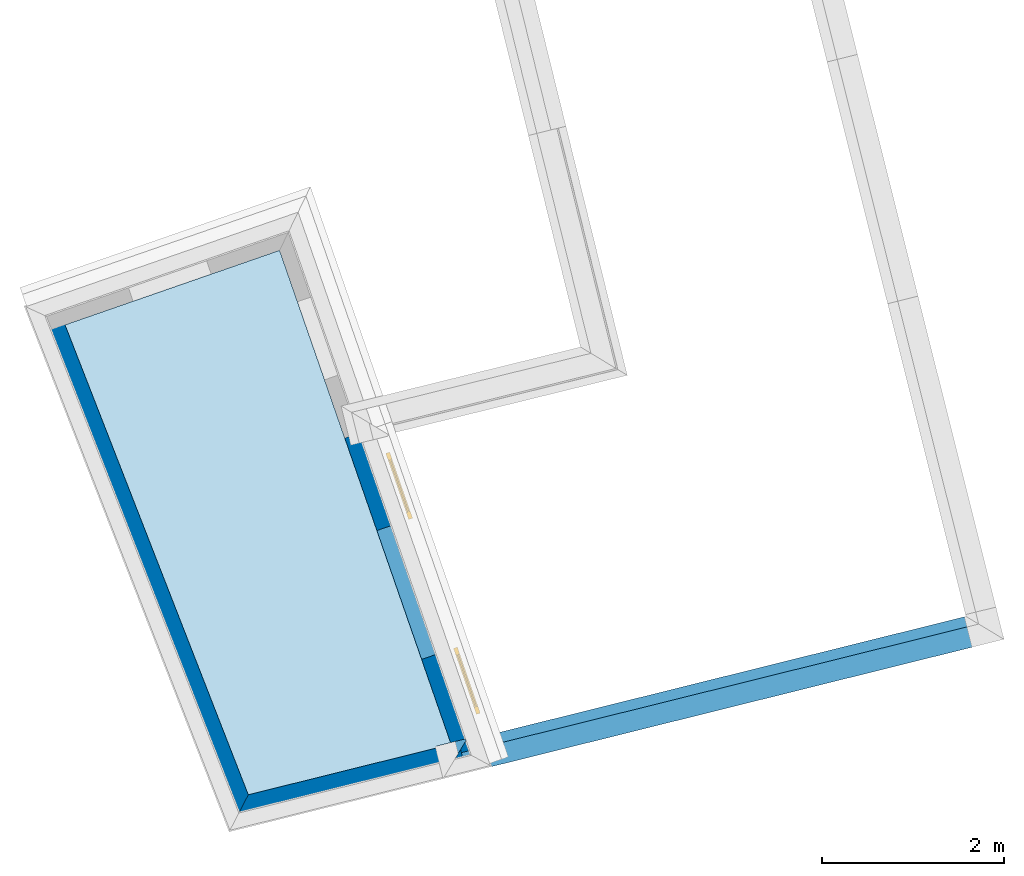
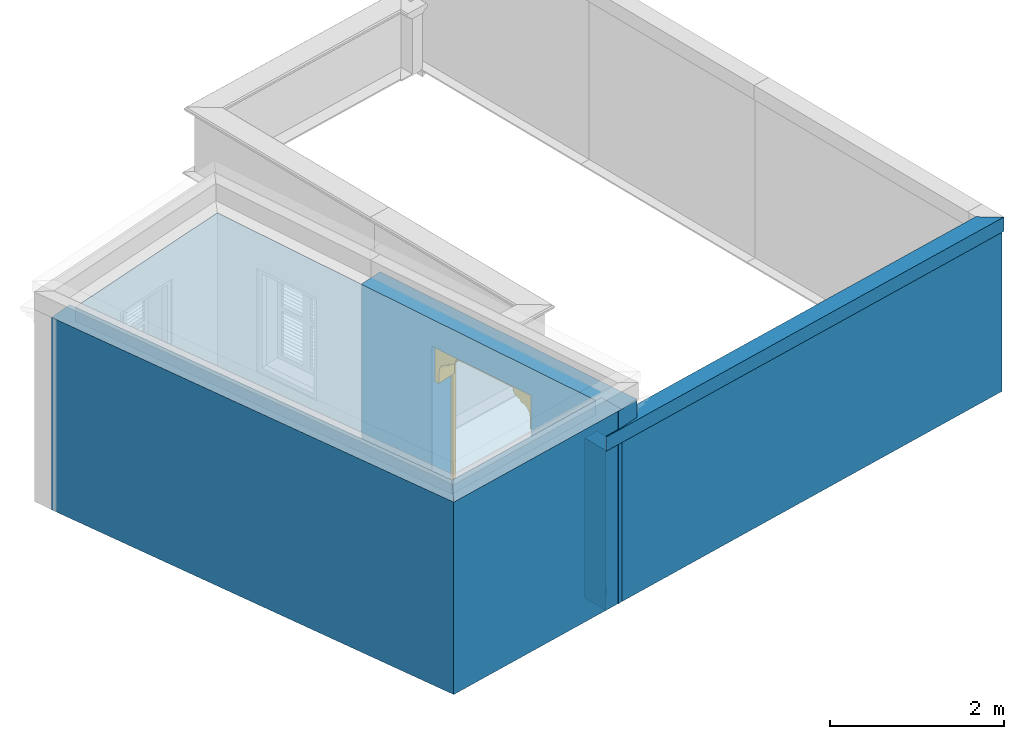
# One storey, part 1 of 5: 6 walls, 1 door, 1 slab, 1 opening.
"""IFC4 building model written with IfcOpenShell, lengths in metres."""

from ifc_helpers import new_model, si_unit, frame, origin, origin_with_axes, place, context, subcontext, project, spatial, polyline, outline, extrude, clip, halfspace, faceted_brep, source, transform, mapped, material, layer, layer_set, layer_usage, material_profile, profile_set, profile_usage, type_object, type_shapes, element, fill, save


model = new_model("IFC4")

# Units and contexts
model_context = context("Model", 3, world=origin_with_axes())
body_context = subcontext(model_context, "Body", "Model", "MODEL_VIEW")
ifc_project = project(units=[si_unit("PLANEANGLEUNIT", "RADIAN"), si_unit("MASSUNIT", "GRAM", prefix="KILO"), si_unit("FORCEUNIT", "NEWTON", prefix="KILO"), si_unit("LENGTHUNIT", "METRE"), si_unit("AREAUNIT", "SQUARE_METRE"), si_unit("VOLUMEUNIT", "CUBIC_METRE")], contexts=[model_context, model_context])

# Site, building, storey
site_placement = place(None, origin_with_axes())
site = spatial("IfcSite", under=ifc_project, at=site_placement, Name="Site plot-1", CompositionType="ELEMENT")
building_placement = place(None, origin_with_axes())
building = spatial("IfcBuilding", under=site, at=building_placement, Name="Building plot-1", CompositionType="ELEMENT")
storey_placement = place(None, frame((0.0, 0.0, 5.4), z_axis=(0.0, 0.0, 1.0), x_axis=(1.0, 0.0, 0.0)))
storey = spatial("IfcBuildingStorey", under=building, at=storey_placement, Name="plot-1 2", CompositionType="ELEMENT", Elevation=5.4)

# Slab
slab_placement = place(storey_placement, frame((-0.917987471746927, 13.9002515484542, 2.5)))
element("IfcSlab", 1, at=slab_placement, inside=storey, Name="My Slab", ObjectType="Slab", PredefinedType="FLOOR", context=body_context, shape_type="SweptSolid", body=[
    extrude(outline(polyline([(0.0, 0.0), (2.23128819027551, 0.55459346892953), (0.344294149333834, 5.98775818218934), (-2.01554332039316, 5.16816233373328), (0.0, 0.0)])), origin_with_axes(), (0.0, 0.0, 1.0), 0.2),
])

# Wall, opening, door
ifc_material_1 = material(Name="Masonry")
ifc_layer_1 = layer(ifc_material_1, 0.33, ventilated=False)
ifc_layer_set_1 = layer_set([ifc_layer_1], Name="exterior_0.08_0.25")
ifc_layer_usage_1 = layer_usage(ifc_layer_set_1, "AXIS2", "POSITIVE", -0.25)
wall_type_1 = type_object("IfcWallType", Name="exterior_0.08_0.25", PredefinedType="SOLIDWALL", material=ifc_layer_set_1)
wall_1_placement = place(storey_placement, frame((1.41761374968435, 14.3983382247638, 0.0), z_axis=(0.0, 0.0, 1.0), x_axis=(-0.328085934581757, 0.94464788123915, 0.0)))
wall_1 = element("IfcWall", 2, at=wall_1_placement, inside=storey, type_object=wall_type_1, material=ifc_layer_usage_1, Name="exterior", context=body_context, shape_type="SweptSolid", body=[
    extrude(outline(polyline([(-0.25, 0.0799999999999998), (-0.25, -0.25), (3.65336914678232, -0.25), (3.65336914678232, 0.0800000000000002), (-0.25, 0.0799999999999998)])), origin_with_axes(), (0.0, 0.0, 1.0), 2.7),
])
opening_placement = place(wall_1_placement, frame((1.07668457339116, 0.0, 0.0199999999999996)))
opening = element("IfcOpeningElement", 3, at=opening_placement, cuts=wall_1, Name="My Opening", ObjectType="Opening", context=body_context, shape_type="SweptSolid", body=[
    extrude(outline(polyline([(0.0, -0.27), (1.5, -0.269999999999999), (1.5, 1.1), (-6.66133814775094e-16, 1.1), (0.0, -0.27)])), origin_with_axes(), (0.0, 0.0, 1.0), 2.3),
])
door_type = type_object("IfcDoorType", Name="arch-1500x2300", OperationType="SINGLE_SWING_LEFT", PredefinedType="NOTDEFINED")
shared_shape = source(origin(), body_context, "Body", "Brep", [
    faceted_brep([(-0.08, -0.02, 0.08), (-0.08, -0.02, 0.0), (-0.69, -0.02, 0.0), (-0.69, -0.02, 0.08), (-0.77, -0.02, 0.0), (-0.77, -0.02, 0.08), (-0.69, -0.035, 0.08), (-0.08, -0.035, 0.08), (0.0, -0.02, 0.08), (0.0, -0.02, 0.0), (-0.08, -0.066, 0.0), (-0.69, -0.066, 0.0), (-0.77, -0.066, 0.0), (-0.77, -0.066, 0.08), (-0.69, -0.02, 0.743333), (-0.77, -0.02, 0.743333), (-0.69, -0.035, 0.743333), (-0.08, -0.035, 0.743333), (-0.08, -0.02, 0.743333), (0.0, -0.02, 0.743333), (0.0, -0.066, 0.08), (0.0, -0.066, 0.0), (-0.69, -0.066, 0.08), (-0.08, -0.066, 0.08), (-0.77, -0.066, 0.743333), (-0.69, -0.02, 0.823333), (-0.77, -0.02, 0.823333), (0.0, -0.066, 0.743333), (0.0, -0.02, 0.823333), (-0.08, -0.02, 0.823333), (-0.08, -0.051, 0.08), (-0.69, -0.051, 0.08), (-0.69, -0.066, 0.743333), (-0.77, -0.066, 0.823333), (-0.69, -0.02, 1.486667), (-0.77, -0.02, 1.486667), (0.0, -0.066, 0.823333), (-0.08, -0.066, 0.743333), (0.0, -0.02, 1.486667), (-0.08, -0.02, 1.486667), (-0.08, -0.051, 0.743333), (-0.69, -0.051, 0.743333), (-0.69, -0.066, 0.823333), (-0.77, -0.066, 1.486667), (-0.69, -0.035, 0.823333), (-0.08, -0.035, 0.823333), (-0.69, -0.035, 1.486667), (-0.69, -0.02, 1.566667), (-0.77, -0.02, 1.566667), (0.0, -0.066, 1.486667), (-0.08, -0.066, 0.823333), (-0.08, -0.035, 1.486667), (0.0, -0.02, 1.566667), (-0.08, -0.02, 1.566667), (-0.69, -0.066, 1.486667), (-0.77, -0.066, 1.566667), (-0.69, -0.02, 2.23), (-0.77, -0.02, 2.23), (0.0, -0.066, 1.566667), (-0.08, -0.066, 1.486667), (0.0, -0.02, 2.23), (-0.08, -0.02, 2.23), (-0.08, -0.051, 0.823333), (-0.69, -0.051, 0.823333), (-0.69, -0.051, 1.486667), (-0.69, -0.066, 1.566667), (-0.77, -0.066, 2.23), (-0.69, -0.035, 1.566667), (-0.08, -0.035, 1.566667), (-0.69, -0.035, 2.23), (-0.69, -0.02, 2.31), (-0.77, -0.02, 2.31), (0.0, -0.066, 2.23), (-0.08, -0.066, 1.566667), (-0.08, -0.051, 1.486667), (-0.08, -0.035, 2.23), (0.0, -0.02, 2.31), (-0.08, -0.02, 2.31), (-0.69, -0.066, 2.23), (-0.77, -0.066, 2.31), (-0.69, -0.066, 2.31), (0.0, -0.066, 2.31), (-0.08, -0.066, 2.23), (-0.08, -0.066, 2.31), (-0.08, -0.051, 1.566667), (-0.69, -0.051, 1.566667), (-0.69, -0.051, 2.23), (-0.08, -0.051, 2.23), (2.19, -0.02, 0.08), (2.19, -0.02, 0.0), (1.58, -0.02, 0.0), (1.58, -0.02, 0.08), (2.27, -0.02, 0.08), (2.27, -0.02, 0.0), (1.58, -0.035, 0.08), (2.19, -0.035, 0.08), (1.5, -0.02, 0.0), (1.5, -0.02, 0.08), (2.19, -0.066, 0.0), (1.58, -0.066, 0.0), (2.27, -0.066, 0.08), (2.27, -0.066, 0.0), (2.27, -0.02, 0.743333), (2.19, -0.02, 0.743333), (2.19, -0.035, 0.743333), (1.58, -0.035, 0.743333), (1.58, -0.02, 0.743333), (1.5, -0.02, 0.743333), (1.5, -0.066, 0.0), (1.5, -0.066, 0.08), (1.58, -0.066, 0.08), (2.19, -0.066, 0.08), (2.27, -0.066, 0.743333), (2.27, -0.02, 0.823333), (2.19, -0.02, 0.823333), (1.5, -0.066, 0.743333), (1.58, -0.02, 0.823333), (1.5, -0.02, 0.823333), (2.19, -0.051, 0.08), (1.58, -0.051, 0.08), (2.19, -0.066, 0.743333), (2.27, -0.066, 0.823333), (2.27, -0.02, 1.486667), (2.19, -0.02, 1.486667), (1.5, -0.066, 0.823333), (1.58, -0.066, 0.743333), (1.58, -0.02, 1.486667), (1.5, -0.02, 1.486667), (1.58, -0.051, 0.743333), (2.19, -0.051, 0.743333), (2.19, -0.066, 0.823333), (2.27, -0.066, 1.486667), (1.58, -0.035, 0.823333), (2.19, -0.035, 0.823333), (2.19, -0.035, 1.486667), (2.27, -0.02, 1.566667), (2.19, -0.02, 1.566667), (1.5, -0.066, 1.486667), (1.58, -0.066, 0.823333), (1.58, -0.035, 1.486667), (1.58, -0.02, 1.566667), (1.5, -0.02, 1.566667), (2.19, -0.066, 1.486667), (2.27, -0.066, 1.566667), (2.27, -0.02, 2.23), (2.19, -0.02, 2.23), (1.5, -0.066, 1.566667), (1.58, -0.066, 1.486667), (1.58, -0.02, 2.23), (1.5, -0.02, 2.23), (2.19, -0.051, 0.823333), (1.58, -0.051, 0.823333), (2.19, -0.051, 1.486667), (2.19, -0.066, 1.566667), (2.27, -0.066, 2.23), (1.58, -0.035, 1.566667), (2.19, -0.035, 1.566667), (2.19, -0.035, 2.23), (2.27, -0.02, 2.31), (2.19, -0.02, 2.31), (1.5, -0.066, 2.23), (1.58, -0.066, 1.566667), (1.58, -0.051, 1.486667), (1.58, -0.035, 2.23), (1.58, -0.02, 2.31), (1.5, -0.02, 2.31), (2.19, -0.066, 2.23), (2.27, -0.066, 2.31), (2.19, -0.066, 2.31), (1.5, -0.066, 2.31), (1.58, -0.066, 2.23), (1.58, -0.066, 2.31), (2.19, -0.051, 1.566667), (1.58, -0.051, 1.566667), (2.19, -0.051, 2.23), (1.58, -0.051, 2.23), (1.5, 0.03, 1.78), (1.5, 0.03, 1.95), (1.44, 0.03, 1.95), (1.44, 0.03, 1.78), (1.44, 0.3, 1.95), (1.44, 0.3, 1.78), (1.5, 0.03, 2.12), (1.429, 0.03, 2.004), (1.5, 0.3, 1.78), (1.5, 0.3, 1.95), (1.429, 0.3, 2.004), (1.399, 0.03, 2.049), (1.5, 0.3, 2.12), (1.399, 0.3, 2.049), (1.354, 0.03, 2.079), (1.5, 0.3, 2.29), (1.5, 0.03, 2.29), (1.354, 0.3, 2.079), (1.3, 0.03, 2.09), (1.3, 0.03, 2.12), (1.254, 0.03, 2.129), (1.18, 0.3, 2.29), (1.18, 0.03, 2.29), (1.3, 0.3, 2.12), (1.254, 0.3, 2.129), (1.3, 0.3, 2.09), (1.215, 0.03, 2.155), (1.189, 0.3, 2.194), (1.18, 0.3, 2.24), (1.18, 0.03, 2.24), (1.189, 0.03, 2.194), (1.215, 0.3, 2.155), (0.06, 0.03, 1.78), (0.06, 0.03, 1.95), (0.0, 0.03, 1.95), (0.0, 0.03, 1.78), (0.06, 0.3, 1.78), (0.06, 0.3, 1.95), (0.071, 0.03, 2.004), (0.0, 0.03, 2.12), (0.0, 0.3, 1.95), (0.0, 0.3, 1.78), (0.071, 0.3, 2.004), (0.101, 0.03, 2.049), (0.0, 0.3, 2.12), (0.101, 0.3, 2.049), (0.146, 0.03, 2.079), (0.0, 0.03, 2.29), (0.0, 0.3, 2.29), (0.146, 0.3, 2.079), (0.2, 0.03, 2.12), (0.2, 0.03, 2.09), (0.246, 0.03, 2.129), (0.32, 0.03, 2.29), (0.32, 0.3, 2.29), (0.246, 0.3, 2.129), (0.2, 0.3, 2.12), (0.2, 0.3, 2.09), (0.285, 0.03, 2.155), (0.32, 0.3, 2.24), (0.311, 0.3, 2.194), (0.311, 0.03, 2.194), (0.32, 0.03, 2.24), (0.285, 0.3, 2.155)], [[[0, 1, 2, 3]], [[4, 5, 3, 2]], [[0, 3, 6, 7]], [[1, 0, 8, 9]], [[2, 1, 10, 11]], [[5, 4, 12, 13]], [[14, 3, 5, 15]], [[4, 2, 11, 12]], [[3, 14, 16, 6]], [[6, 16, 17, 7]], [[18, 0, 7, 17]], [[0, 18, 19, 8]], [[9, 8, 20, 21]], [[1, 9, 21, 10]], [[22, 11, 10, 23]], [[13, 12, 11, 22]], [[15, 5, 13, 24]], [[25, 14, 15, 26]], [[14, 18, 17, 16]], [[8, 19, 27, 20]], [[28, 19, 18, 29]], [[23, 10, 21, 20]], [[22, 23, 30, 31]], [[22, 32, 24, 13]], [[26, 15, 24, 33]], [[29, 18, 14, 25]], [[34, 25, 26, 35]], [[19, 28, 36, 27]], [[20, 27, 37, 23]], [[38, 28, 29, 39]], [[23, 37, 40, 30]], [[41, 31, 30, 40]], [[32, 22, 31, 41]], [[32, 42, 33, 24]], [[35, 26, 33, 43]], [[29, 25, 44, 45]], [[25, 34, 46, 44]], [[47, 34, 35, 48]], [[28, 38, 49, 36]], [[27, 36, 50, 37]], [[39, 29, 45, 51]], [[52, 38, 39, 53]], [[37, 32, 41, 40]], [[37, 50, 42, 32]], [[42, 54, 43, 33]], [[48, 35, 43, 55]], [[44, 46, 51, 45]], [[34, 39, 51, 46]], [[34, 47, 53, 39]], [[56, 47, 48, 57]], [[38, 52, 58, 49]], [[36, 49, 59, 50]], [[60, 52, 53, 61]], [[42, 50, 62, 63]], [[54, 42, 63, 64]], [[54, 65, 55, 43]], [[57, 48, 55, 66]], [[53, 47, 67, 68]], [[47, 56, 69, 67]], [[70, 56, 57, 71]], [[52, 60, 72, 58]], [[49, 58, 73, 59]], [[50, 59, 74, 62]], [[61, 53, 68, 75]], [[76, 60, 61, 77]], [[64, 63, 62, 74]], [[59, 54, 64, 74]], [[65, 54, 59, 73]], [[65, 78, 66, 55]], [[71, 57, 66, 79]], [[67, 69, 75, 68]], [[56, 61, 75, 69]], [[77, 61, 56, 70]], [[70, 71, 79, 80]], [[60, 76, 81, 72]], [[58, 72, 82, 73]], [[76, 77, 83, 81]], [[65, 73, 84, 85]], [[78, 65, 85, 86]], [[78, 80, 79, 66]], [[77, 70, 80, 83]], [[72, 81, 83, 82]], [[73, 82, 87, 84]], [[86, 85, 84, 87]], [[82, 78, 86, 87]], [[82, 83, 80, 78]], [[88, 89, 90, 91]], [[89, 88, 92, 93]], [[94, 95, 88, 91]], [[96, 97, 91, 90]], [[98, 99, 90, 89]], [[100, 101, 93, 92]], [[102, 92, 88, 103]], [[101, 98, 89, 93]], [[95, 104, 103, 88]], [[94, 105, 104, 95]], [[105, 94, 91, 106]], [[97, 107, 106, 91]], [[108, 109, 97, 96]], [[99, 108, 96, 90]], [[110, 99, 98, 111]], [[111, 98, 101, 100]], [[112, 100, 92, 102]], [[113, 102, 103, 114]], [[104, 105, 106, 103]], [[109, 115, 107, 97]], [[116, 106, 107, 117]], [[109, 108, 99, 110]], [[118, 119, 110, 111]], [[100, 112, 120, 111]], [[121, 112, 102, 113]], [[114, 103, 106, 116]], [[122, 113, 114, 123]], [[115, 124, 117, 107]], [[110, 125, 115, 109]], [[126, 116, 117, 127]], [[119, 128, 125, 110]], [[128, 119, 118, 129]], [[129, 118, 111, 120]], [[112, 121, 130, 120]], [[131, 121, 113, 122]], [[132, 133, 114, 116]], [[133, 134, 123, 114]], [[135, 122, 123, 136]], [[124, 137, 127, 117]], [[125, 138, 124, 115]], [[139, 132, 116, 126]], [[140, 126, 127, 141]], [[128, 129, 120, 125]], [[120, 130, 138, 125]], [[121, 131, 142, 130]], [[143, 131, 122, 135]], [[132, 139, 134, 133]], [[134, 139, 126, 123]], [[126, 140, 136, 123]], [[144, 135, 136, 145]], [[137, 146, 141, 127]], [[138, 147, 137, 124]], [[148, 140, 141, 149]], [[150, 151, 138, 130]], [[152, 150, 130, 142]], [[131, 143, 153, 142]], [[154, 143, 135, 144]], [[155, 156, 136, 140]], [[156, 157, 145, 136]], [[158, 144, 145, 159]], [[146, 160, 149, 141]], [[147, 161, 146, 137]], [[151, 162, 147, 138]], [[163, 155, 140, 148]], [[164, 148, 149, 165]], [[162, 151, 150, 152]], [[162, 152, 142, 147]], [[161, 147, 142, 153]], [[143, 154, 166, 153]], [[167, 154, 144, 158]], [[155, 163, 157, 156]], [[157, 163, 148, 145]], [[159, 145, 148, 164]], [[168, 167, 158, 159]], [[160, 169, 165, 149]], [[161, 170, 160, 146]], [[169, 171, 164, 165]], [[172, 173, 161, 153]], [[174, 172, 153, 166]], [[154, 167, 168, 166]], [[171, 168, 159, 164]], [[170, 171, 169, 160]], [[173, 175, 170, 161]], [[175, 173, 172, 174]], [[175, 174, 166, 170]], [[166, 168, 171, 170]], [[176, 177, 178, 179]], [[180, 181, 179, 178]], [[177, 182, 183, 178]], [[177, 176, 184, 185]], [[181, 184, 176, 179]], [[181, 180, 185, 184]], [[186, 180, 178, 183]], [[182, 187, 183]], [[182, 177, 185, 188]], [[180, 186, 188, 185]], [[189, 186, 183, 187]], [[182, 190, 187]], [[188, 191, 192, 182]], [[188, 186, 189]], [[193, 189, 187, 190]], [[194, 190, 182, 195]], [[182, 192, 196, 195]], [[192, 191, 197, 198]], [[199, 200, 191, 188]], [[188, 189, 193]], [[201, 193, 190, 194]], [[199, 201, 194, 195]], [[200, 199, 195, 196]], [[192, 202, 196]], [[191, 203, 204, 197]], [[192, 198, 205, 206]], [[207, 191, 200]], [[199, 188, 193, 201]], [[207, 200, 196, 202]], [[192, 206, 202]], [[204, 203, 206, 205]], [[203, 191, 207]], [[203, 207, 202, 206]], [[208, 209, 210, 211]], [[209, 208, 212, 213]], [[209, 214, 215, 210]], [[211, 210, 216, 217]], [[208, 211, 217, 212]], [[217, 216, 213, 212]], [[214, 209, 213, 218]], [[214, 219, 215]], [[220, 216, 210, 215]], [[216, 220, 218, 213]], [[219, 214, 218, 221]], [[219, 222, 215]], [[215, 223, 224, 220]], [[221, 218, 220]], [[222, 219, 221, 225]], [[226, 215, 222, 227]], [[226, 228, 223, 215]], [[229, 230, 224, 223]], [[220, 224, 231, 232]], [[225, 221, 220]], [[227, 222, 225, 233]], [[226, 227, 233, 232]], [[228, 226, 232, 231]], [[228, 234, 223]], [[230, 235, 236, 224]], [[237, 238, 229, 223]], [[231, 224, 239]], [[233, 225, 220, 232]], [[234, 228, 231, 239]], [[234, 237, 223]], [[238, 237, 236, 235]], [[239, 224, 236]], [[237, 234, 239, 236]], [[238, 235, 204, 205]], [[235, 230, 197, 204]], [[229, 238, 205, 198]], [[230, 229, 198, 197]]]),
])
type_shapes(door_type, [shared_shape])
door_placement = place(storey_placement, frame((1.31942361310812, 15.5040092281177, 0.0199999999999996), z_axis=(0.0, 0.0, 1.0), x_axis=(-0.492128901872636, 1.41697182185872, 0.0)))
door = element("IfcDoor", 4, at=door_placement, inside=storey, type_object=door_type, Name="circulation sahn door", OverallHeight=2.3, OverallWidth=1.5, context=body_context, shape_type="MappedRepresentation", body=[
    mapped(shared_shape, transform((0.0, 0.0, 0.0), scale=1.0)),
])
fill(opening, door)

# Walls
ifc_material_2 = material(Name="Masonry")
ifc_layer_2 = layer(ifc_material_2, 0.33, ventilated=False)
ifc_layer_set_2 = layer_set([ifc_layer_2], Name="party_0.08_0.25")
ifc_layer_usage_2 = layer_usage(ifc_layer_set_2, "AXIS2", "POSITIVE", -0.25)
wall_type_2 = type_object("IfcWallType", Name="party_0.08_0.25", PredefinedType="SOLIDWALL", material=ifc_layer_set_2)
wall_2_placement = place(storey_placement, frame((-3.03824364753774, 19.1167336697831, 0.0), z_axis=(0.0, 0.0, 1.0), x_axis=(0.363339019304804, -0.931656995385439, 0.0)))
element("IfcWall", 5, at=wall_2_placement, inside=storey, type_object=wall_type_2, material=ifc_layer_usage_2, Name="party", context=body_context, shape_type="SweptSolid", body=[
    extrude(outline(polyline([(1.26611194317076e-15, 0.0799999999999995), (-2.67968859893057e-16, -0.25), (5.92052541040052, -0.25), (5.63034385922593, 0.0799999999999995), (1.26611194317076e-15, 0.0799999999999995)])), origin_with_axes(), (0.0, 0.0, 1.0), 2.7),
])
wall_3_placement = place(storey_placement, frame((-0.966960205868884, 13.8056451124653, 0.0), z_axis=(0.0, 0.0, 1.0), x_axis=(0.970472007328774, 0.241213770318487, 0.0)))
element("IfcWall", 6, at=wall_3_placement, inside=storey, type_object=wall_type_2, material=ifc_layer_usage_2, Name="party", context=body_context, shape_type="SweptSolid", body=[
    extrude(outline(polyline([(0.0703470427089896, 0.0800000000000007), (-0.219834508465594, -0.25), (2.45712801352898, -0.25), (2.45712801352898, 0.0800000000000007), (0.0703470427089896, 0.0800000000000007)])), origin_with_axes(), (0.0, 0.0, 1.0), 2.7),
])
ifc_material_profile_1 = material_profile(None, outline(polyline([(0.25, 0.0), (0.25, 2.245), (0.05, 2.245), (0.05, 0.02), (-0.08, 0.02), (-0.08, 0.0), (0.25, 0.0)])))
ifc_profile_set_1 = profile_set([ifc_material_profile_1])
ifc_profile_usage_1 = profile_usage(ifc_profile_set_1)
wall_type_3 = type_object("IfcWallType", Name="parapet party_0", PredefinedType="PARAPET", material=ifc_profile_set_1)
wall_4_placement = place(storey_placement, frame((1.65882752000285, 13.427866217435, 0.0), z_axis=(-0.241213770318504, 0.97047200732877, 0.0), x_axis=(-0.97047200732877, -0.241213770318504, 0.0)))
element("IfcWall", 7, at=wall_4_placement, inside=storey, type_object=wall_type_3, material=ifc_profile_usage_1, Name="parapet party_0", context=body_context, shape_type="Clipping", body=[
    clip(clip(extrude(outline(polyline([(0.25, 0.0), (0.25, 2.245), (0.05, 2.245), (0.05, 0.02), (-0.08, 0.02), (-0.08, 0.0), (0.25, 0.0)])), origin_with_axes(), (0.0, 0.0, 1.0), 2.1), halfspace(frame((0.0, 0.0, 1.1), z_axis=(-7.27366154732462e-16, 0.0, -1.0), x_axis=(0.0, 1.0, 0.0)), True)), halfspace(frame((0.0, 0.0, 1.0), z_axis=(-0.707106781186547, 0.0, -0.707106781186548), x_axis=(0.0, 1.0, 0.0)), False)),
])
ifc_profile_usage_2 = profile_usage(ifc_profile_set_1)
wall_5_placement = place(storey_placement, frame((8.04239966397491, 16.0449489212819, 0.0), z_axis=(-0.97047200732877, -0.241213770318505, 0.0), x_axis=(0.241213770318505, -0.97047200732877, 0.0)))
element("IfcWall", 8, at=wall_5_placement, inside=storey, type_object=wall_type_3, material=ifc_profile_usage_2, Name="parapet party_0", context=body_context, shape_type="Clipping", body=[
    clip(clip(extrude(outline(polyline([(0.25, 0.0), (0.25, 2.245), (0.05, 2.245), (0.05, 0.02), (-0.08, 0.02), (-0.08, 0.0), (0.25, 0.0)])), origin_with_axes(), (0.0, 0.0, 1.0), 7.82635445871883), halfspace(frame((0.0, 0.0, 6.82635445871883), z_axis=(0.707106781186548, 0.0, -0.707106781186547), x_axis=(0.0, 1.0, 0.0)), True)), halfspace(frame((0.0, 0.0, 1.0), z_axis=(-0.707106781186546, 0.0, -0.707106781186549), x_axis=(0.0, 1.0, 0.0)), False)),
])
ifc_material_profile_2 = material_profile(None, outline(polyline([(0.265, 2.245), (0.265, 2.445), (0.035, 2.445), (0.035, 2.245), (0.265, 2.245)])))
ifc_profile_set_2 = profile_set([ifc_material_profile_2])
ifc_profile_usage_3 = profile_usage(ifc_profile_set_2)
wall_type_4 = type_object("IfcWallType", Name="parapet party_1", PredefinedType="PARAPET", material=ifc_profile_set_2)
wall_6_placement = place(storey_placement, frame((8.04239966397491, 16.0449489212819, 0.0), z_axis=(-0.97047200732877, -0.241213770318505, 0.0), x_axis=(0.241213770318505, -0.97047200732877, 0.0)))
element("IfcWall", 9, at=wall_6_placement, inside=storey, type_object=wall_type_4, material=ifc_profile_usage_3, Name="parapet party_1", context=body_context, shape_type="Clipping", body=[
    clip(clip(extrude(outline(polyline([(0.265, 2.245), (0.265, 2.445), (0.035, 2.445), (0.035, 2.245), (0.265, 2.245)])), origin_with_axes(), (0.0, 0.0, 1.0), 7.82635445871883), halfspace(frame((0.0, 0.0, 6.82635445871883), z_axis=(0.707106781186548, 0.0, -0.707106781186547), x_axis=(0.0, 1.0, 0.0)), True)), halfspace(frame((0.0, 0.0, 1.0), z_axis=(-0.707106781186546, 0.0, -0.707106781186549), x_axis=(0.0, 1.0, 0.0)), False)),
])

save(model, "model.ifc")
